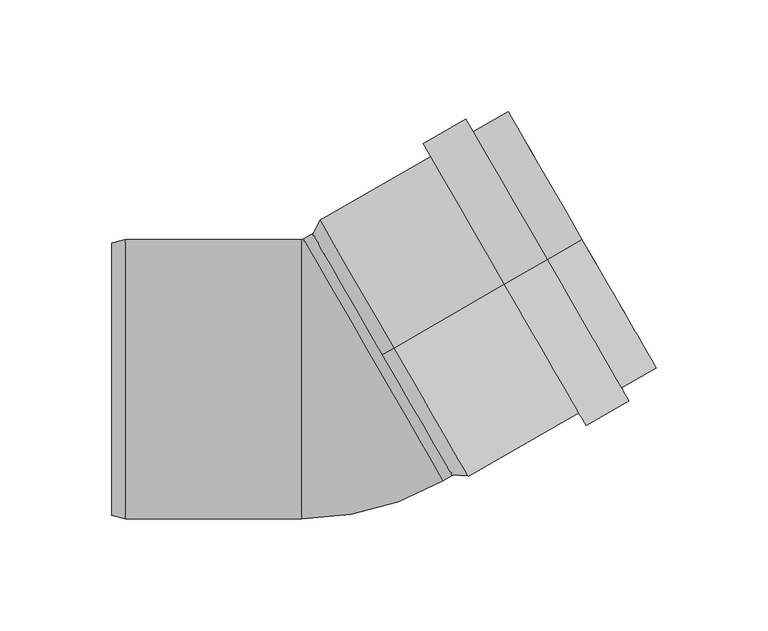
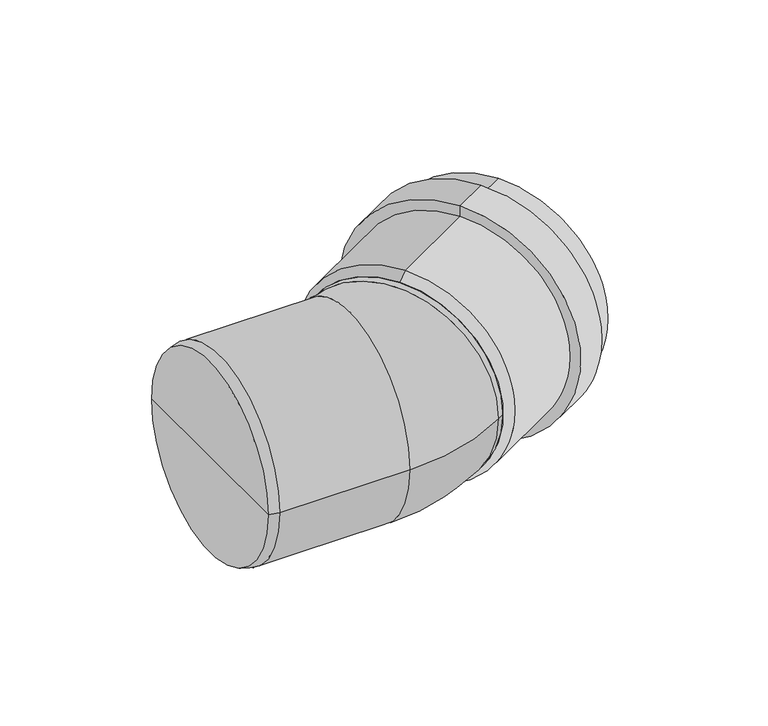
"""IFC4 building model written with IfcOpenShell, lengths in millimetres: pipe fitting geometry, OSMA_KG2000_PPKGB : Koleno 30°."""

from ifc_helpers import new_model, si_unit, point, frame, origin, place, context, project, spatial, polyline, circle_curve, ellipse_curve, trimmed, source, transform, mapped, element, save
from ifc_brep_helpers import plane_surface, cylinder_surface, revolved_surface, advanced_brep


def pipe_fitting_4c6fb6e3(model_context):
    return source(origin(), model_context, "Body", "AdvancedBrep", [
        advanced_brep(
        [(24.2487113, 14.0, 62.5), (24.2487113, 14.0, -62.5), (108.2531755, 62.5, -62.5), (108.2531755, 62.5, 62.5), (73.6121593, 42.5, 66.4), (73.6121593, 42.5, -66.4), (24.2487113, 14.0, -66.4), (24.2487113, 14.0, 66.4), (73.6121593, 42.5, 73.0), (73.6121593, 42.5, -73.0), (92.6647182, 53.5, 73.0), (92.6647182, 53.5, -73.0), (92.6647182, 53.5, 66.4), (92.6647182, 53.5, -66.4), (108.2531755, 62.5, 66.4), (108.2531755, 62.5, -66.4), (19.0525589, 11.0, 58.6), (19.0525589, 11.0, -58.6), (19.0525589, 11.0, 62.5), (19.0525589, 11.0, -62.5)],
        [
            (0, 1, circle_curve(frame((24.2487113, 14.0, 0.0), z_axis=(-0.866025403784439, -0.49999999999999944, 0.0), x_axis=(0.0, 0.0, -1.0)), 62.5)),
            (1, 2),
            (2, 3, circle_curve(frame((108.2531755, 62.5, 0.0), z_axis=(0.866025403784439, 0.49999999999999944, 0.0), x_axis=(0.0, 0.0, -1.0)), 62.5)),
            (3, 0),
            (1, 0, circle_curve(frame((24.2487113, 14.0, 0.0), z_axis=(-0.866025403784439, -0.49999999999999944, 0.0), x_axis=(0.0, 0.0, -1.0)), 62.5)),
            (3, 2, circle_curve(frame((108.2531755, 62.5, 0.0), z_axis=(0.866025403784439, 0.49999999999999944, 0.0), x_axis=(0.0, 0.0, -1.0)), 62.5)),
            (4, 5, circle_curve(frame((73.6121593, 42.5, 0.0), z_axis=(-0.866025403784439, -0.49999999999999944, 0.0), x_axis=(0.0, 0.0, -1.0)), 66.4)),
            (5, 6),
            (6, 7, circle_curve(frame((24.2487113, 14.0, 0.0), z_axis=(0.866025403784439, 0.49999999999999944, 0.0), x_axis=(0.0, 0.0, -1.0)), 66.4)),
            (7, 4),
            (5, 4, circle_curve(frame((73.6121593, 42.5, 0.0), z_axis=(-0.866025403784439, -0.49999999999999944, 0.0), x_axis=(0.0, 0.0, -1.0)), 66.4)),
            (7, 6, circle_curve(frame((24.2487113, 14.0, 0.0), z_axis=(0.866025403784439, 0.49999999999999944, 0.0), x_axis=(0.0, 0.0, -1.0)), 66.4)),
            (8, 9, circle_curve(frame((73.6121593, 42.5, 0.0), z_axis=(-0.866025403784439, -0.49999999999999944, 0.0), x_axis=(0.0, 0.0, -1.0)), 73.0)),
            (9, 5),
            (4, 8),
            (9, 8, circle_curve(frame((73.6121593, 42.5, 0.0), z_axis=(-0.866025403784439, -0.49999999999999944, 0.0), x_axis=(0.0, 0.0, -1.0)), 73.0)),
            (10, 11, circle_curve(frame((92.6647182, 53.5, 0.0), z_axis=(-0.866025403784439, -0.49999999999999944, 0.0), x_axis=(0.0, 0.0, -1.0)), 73.0)),
            (11, 9),
            (8, 10),
            (11, 10, circle_curve(frame((92.6647182, 53.5, 0.0), z_axis=(-0.866025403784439, -0.49999999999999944, 0.0), x_axis=(0.0, 0.0, -1.0)), 73.0)),
            (12, 13, circle_curve(frame((92.6647182, 53.5, 0.0), z_axis=(-0.866025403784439, -0.49999999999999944, 0.0), x_axis=(0.0, 0.0, -1.0)), 66.4)),
            (13, 11),
            (10, 12),
            (13, 12, circle_curve(frame((92.6647182, 53.5, 0.0), z_axis=(-0.866025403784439, -0.49999999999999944, 0.0), x_axis=(0.0, 0.0, -1.0)), 66.4)),
            (14, 15, circle_curve(frame((108.2531755, 62.5, 0.0), z_axis=(-0.866025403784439, -0.49999999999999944, 0.0), x_axis=(0.0, 0.0, -1.0)), 66.4)),
            (15, 13),
            (12, 14),
            (15, 14, circle_curve(frame((108.2531755, 62.5, 0.0), z_axis=(-0.866025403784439, -0.49999999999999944, 0.0), x_axis=(0.0, 0.0, -1.0)), 66.4)),
            (2, 15),
            (14, 3),
            (16, 17, circle_curve(frame((19.0525589, 11.0, 0.0), z_axis=(-0.866025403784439, -0.49999999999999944, 0.0), x_axis=(0.0, 0.0, -1.0)), 58.6)),
            (17, 1),
            (0, 16),
            (17, 16, circle_curve(frame((19.0525589, 11.0, 0.0), z_axis=(-0.866025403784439, -0.49999999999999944, 0.0), x_axis=(0.0, 0.0, -1.0)), 58.6)),
            (18, 19, circle_curve(frame((19.0525589, 11.0, 0.0), z_axis=(-0.866025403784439, -0.49999999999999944, 0.0), x_axis=(0.0, 0.0, -1.0)), 62.5)),
            (19, 17),
            (16, 18),
            (19, 18, circle_curve(frame((19.0525589, 11.0, 0.0), z_axis=(-0.866025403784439, -0.49999999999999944, 0.0), x_axis=(0.0, 0.0, -1.0)), 62.5)),
            (6, 19),
            (18, 7),
        ],
        [
            revolved_surface(polyline([(108.25317550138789, 62.49999999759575, -62.5), (24.248711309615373, 13.99999998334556, -62.5)]), (2420.0856646, 1397.2371099, 0.0), (0.866025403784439, 0.49999999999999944, 0.0)),
            cylinder_surface(frame((2420.0856646, 1397.2371099, 0.0), z_axis=(0.866025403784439, 0.49999999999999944, 0.0), x_axis=(0.0, 0.0, -1.0)), 66.4),
            plane_surface(frame((73.6121593, 42.5, 0.0), z_axis=(-0.866025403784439, -0.49999999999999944, 0.0), x_axis=(0.0, 0.0, -1.0))),
            cylinder_surface(frame((2420.0856646, 1397.2371099, 0.0), z_axis=(0.866025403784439, 0.49999999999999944, 0.0), x_axis=(0.0, 0.0, -1.0)), 73.0),
            plane_surface(frame((92.6647182, 53.5, 0.0), z_axis=(0.866025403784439, 0.49999999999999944, 0.0), x_axis=(0.0, 0.0, -1.0))),
            plane_surface(frame((108.2531755, 62.5, 0.0), z_axis=(0.866025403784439, 0.49999999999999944, 0.0), x_axis=(0.0, 0.0, -1.0))),
            revolved_surface(polyline([(24.2487113, 14.0, -62.5), (19.0525589, 11.0, -58.6)]), (2420.0856646, 1397.2371099, 0.0), (0.866025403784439, 0.49999999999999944, 0.0)),
            plane_surface(frame((19.0525589, 11.0, 0.0), z_axis=(-0.866025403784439, -0.49999999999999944, 0.0), x_axis=(0.0, 0.0, -1.0))),
            revolved_surface(polyline([(19.0525589, 11.0, -62.5), (24.2487113, 14.0, -66.4)]), (2420.0856646, 1397.2371099, 0.0), (0.866025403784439, 0.49999999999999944, 0.0)),
        ],
        [
            (0, [[1, 2, 3, 4]]),
            (0, [[5, -4, 6, -2]]),
            (1, [[7, 8, 9, 10]]),
            (1, [[11, -10, 12, -8]]),
            (2, [[13, 14, -7, 15]]),
            (2, [[16, -15, -11, -14]]),
            (3, [[17, 18, -13, 19]]),
            (3, [[20, -19, -16, -18]]),
            (4, [[21, 22, -17, 23]]),
            (4, [[24, -23, -20, -22]]),
            (1, [[25, 26, -21, 27]]),
            (1, [[28, -27, -24, -26]]),
            (5, [[-3, 29, -25, 30]]),
            (5, [[-6, -30, -28, -29]]),
            (6, [[31, 32, -1, 33]]),
            (6, [[34, -33, -5, -32]]),
            (7, [[35, 36, -31, 37]]),
            (7, [[38, -37, -34, -36]]),
            (8, [[-9, 39, -35, 40]]),
            (8, [[-12, -40, -38, -39]]),
        ],
    ),
        advanced_brep(
        [(-16.3987483, 62.7009619, 0.0), (-17.1487483, 62.5, 0.0), (-17.1487483, -62.5, 0.0), (46.1012517, -45.5522136, 0.0), (14.8512517, 8.5743742, 62.5), (14.8512517, 8.5743742, -62.5), (-102.0, 0.0, 0.0), (-102.0, 60.8923048, 0.0), (-102.0, -60.8923048, 0.0), (-96.0, 62.5, 0.0), (-96.0, -62.5, 0.0), (55.4987113, -40.1265877, 0.0), (-7.0012887, 68.1265877, 0.0)],
        [
            (0, 1, circle_curve(frame((-17.1487483, 64.0, 0.0), z_axis=(0.0, 0.0, -1.0), x_axis=(0.0, -1.0, 0.0)), 1.5)),
            (1, 2, circle_curve(frame((-17.1487483, 0.0, 0.0), z_axis=(1.0, 0.0, 0.0), x_axis=(0.0, 1.0, 0.0)), 62.5)),
            (2, 3, circle_curve(frame((-17.1487483, 64.0, 0.0), z_axis=(0.0, 0.0, 1.0), x_axis=(0.0, -1.0, 0.0)), 126.5)),
            (3, 4, circle_curve(frame((14.8512517, 8.5743742, 0.0), z_axis=(-0.8660254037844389, -0.4999999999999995, 0.0), x_axis=(-0.4999999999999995, 0.8660254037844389, 0.0)), 62.5)),
            (4, 0, circle_curve(frame((14.8512517, 8.5743742, 0.0), z_axis=(-0.8660254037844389, -0.4999999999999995, 0.0), x_axis=(-0.4999999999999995, 0.8660254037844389, 0.0)), 62.5)),
            (0, 5, circle_curve(frame((14.8512517, 8.5743742, 0.0), z_axis=(-0.8660254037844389, -0.4999999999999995, 0.0), x_axis=(-0.4999999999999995, 0.8660254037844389, 0.0)), 62.5)),
            (5, 3, circle_curve(frame((14.8512517, 8.5743742, 0.0), z_axis=(-0.8660254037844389, -0.4999999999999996, 0.0), x_axis=(-0.4999999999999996, 0.8660254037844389, 0.0)), 62.5)),
            (2, 1, circle_curve(frame((-17.1487483, 0.0, 0.0), z_axis=(1.0, 0.0, 0.0), x_axis=(0.0, 1.0, 0.0)), 62.5)),
            (6, 7),
            (7, 8, circle_curve(frame((-102.0, 0.0, 0.0), z_axis=(-1.0, 0.0, 0.0), x_axis=(0.0, 1.0, 0.0)), 60.8923048)),
            (8, 6),
            (8, 7, circle_curve(frame((-102.0, 0.0, 0.0), z_axis=(-1.0, 0.0, 0.0), x_axis=(0.0, 1.0, 0.0)), 60.8923048)),
            (7, 9),
            (9, 10, circle_curve(frame((-96.0, 0.0, 0.0), z_axis=(-1.0, 0.0, 0.0), x_axis=(0.0, 1.0, 0.0)), 62.5)),
            (10, 8),
            (10, 9, circle_curve(frame((-96.0, 0.0, 0.0), z_axis=(-1.0, 0.0, 0.0), x_axis=(0.0, 1.0, 0.0)), 62.5)),
            (9, 1),
            (2, 10),
            (11, 12, circle_curve(frame((24.2487113, 14.0, 0.0), z_axis=(0.866025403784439, 0.49999999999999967, 0.0), x_axis=(-0.49999999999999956, 0.8660254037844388, 0.0)), 62.5)),
            (12, 11, circle_curve(frame((24.2487113, 14.0, 0.0), z_axis=(0.866025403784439, 0.49999999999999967, 0.0), x_axis=(-0.49999999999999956, 0.8660254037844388, 0.0)), 62.5)),
            (12, 0),
            (3, 11),
        ],
        [
            revolved_surface(trimmed(ellipse_curve(frame((-17.1487483, 0.0, 0.0), z_axis=(-1.0, 0.0, 0.0), x_axis=(0.0, 1.0, 0.0)), 62.5, 62.5), [point((-17.1487483, -62.5, 0.0))], [point((-17.1487483, 62.5, 0.0))], True, "CARTESIAN"), (-17.1487483, 64.0, 0.0), (0.0, 0.0, 1.0)),
            revolved_surface(trimmed(ellipse_curve(frame((-17.1487483, 0.0, 0.0), z_axis=(-1.0, 0.0, 0.0), x_axis=(0.0, 1.0, 0.0)), 62.5, 62.5), [point((-17.1487483, 62.5, 0.0))], [point((-17.1487483, -62.5, 0.0))], True, "CARTESIAN"), (-17.1487483, 64.0, 0.0), (0.0, 0.0, 1.0)),
            plane_surface(frame((-102.0, 0.0, 0.0), z_axis=(-1.0, 0.0, 0.0), x_axis=(0.0, 1.0, 0.0))),
            revolved_surface(polyline([(-96.0, 62.5, 0.0), (-102.0, 60.8923048, 0.0)]), (331.0587718, 0.0, 0.0), (-1.0, 0.0, 0.0)),
            cylinder_surface(frame((331.0587718, 0.0, 0.0), z_axis=(-1.0, 0.0, 0.0), x_axis=(0.0, 1.0, 0.0)), 62.5),
            plane_surface(frame((24.2487113, 14.0, 0.0), z_axis=(0.8660254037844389, 0.4999999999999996, 0.0), x_axis=(0.0, 0.0, 1.0))),
            cylinder_surface(frame((14.8512517, 8.5743742, 0.0), z_axis=(-0.8660254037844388, -0.49999999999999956, 0.0), x_axis=(-0.49999999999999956, 0.8660254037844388, 0.0)), 62.5),
        ],
        [
            (0, [[1, 2, 3, 4, 5]]),
            (1, [[-1, 6, 7, -3, 8]]),
            (2, [[9, 10, 11]]),
            (2, [[-9, -11, 12]]),
            (3, [[-10, 13, 14, 15]]),
            (3, [[-12, -15, 16, -13]]),
            (4, [[-14, 17, -8, 18]]),
            (4, [[-16, -18, -2, -17]]),
            (5, [[19, 20]]),
            (6, [[-20, 21, -5, -4, 22]]),
            (6, [[-19, -22, -7, -6, -21]]),
        ],
    ),
    ])


if __name__ == "__main__":
    model = new_model("IFC4")
    model_context = context("Model", 3, world=origin())
    ifc_project = project(units=[si_unit("LENGTHUNIT", "METRE", prefix="MILLI")], contexts=[model_context])
    site = spatial("IfcSite", under=ifc_project)
    building = spatial("IfcBuilding", under=site)
    placement = place(None, origin())
    pipe_fitting_shape = pipe_fitting_4c6fb6e3(model_context)
    element("IfcPipeFitting", 1, ObjectType="OSMA_KG2000_PPKGB : Koleno 30°", at=placement, inside=building, context=model_context, shape_type="MappedRepresentation", body=[
        mapped(pipe_fitting_shape, transform((0.0, 0.0, 0.0), x_axis=(1.0, 0.0, 0.0), y_axis=(0.0, 1.0, 0.0), z_axis=(0.0, 0.0, 1.0))),
    ])
    save(model, "model.ifc")
